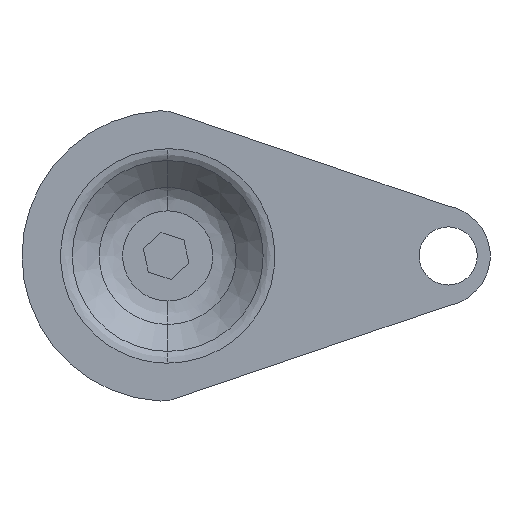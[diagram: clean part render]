
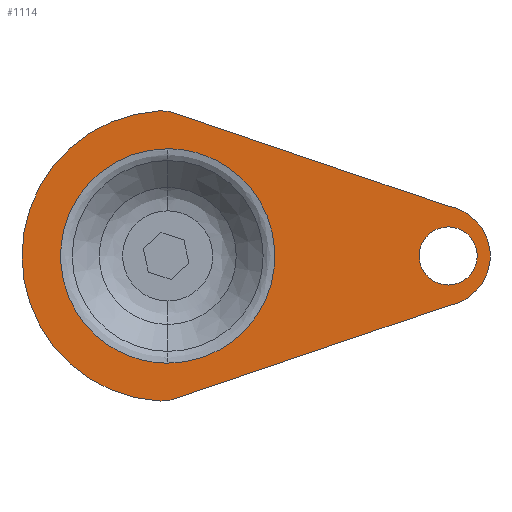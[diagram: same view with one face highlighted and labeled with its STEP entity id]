
A CAD part, front view. The second image highlights one B-rep face of the part: STEP entity #1114.
In plain terms, the highlighted planar face has unit normal (0, -1, 0).
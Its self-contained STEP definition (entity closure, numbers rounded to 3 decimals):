
#34 = VERTEX_POINT ( 'NONE', #2188 ) ;
#125 = CARTESIAN_POINT ( 'NONE',  ( -19.082, -10.175, -34.954 ) ) ;
#192 = CIRCLE ( 'NONE', #402, 7. ) ;
#261 = LINE ( 'NONE', #1871, #2031 ) ;
#309 = CIRCLE ( 'NONE', #900, 10. ) ;
#325 = CARTESIAN_POINT ( 'NONE',  ( -17.565, -10.175, 0. ) ) ;
#363 = DIRECTION ( 'NONE',  ( 0., 0., 1. ) ) ;
#402 = AXIS2_PLACEMENT_3D ( 'NONE', #448, #452, #587 ) ;
#413 = CARTESIAN_POINT ( 'NONE',  ( -15.865, -10.175, 34.422 ) ) ;
#430 = CARTESIAN_POINT ( 'NONE',  ( 34.199, -10.175, -25.828 ) ) ;
#438 = CARTESIAN_POINT ( 'NONE',  ( -17.565, -10.175, 0. ) ) ;
#448 = CARTESIAN_POINT ( 'NONE',  ( 50.135, -10.175, 0. ) ) ;
#452 = DIRECTION ( 'NONE',  ( 0., -1., 0. ) ) ;
#462 = ORIENTED_EDGE ( 'NONE', *, *, #750, .F. ) ;
#468 = FACE_OUTER_BOUND ( 'NONE', #2145, .T. ) ;
#531 = DIRECTION ( 'NONE',  ( 0., 1., 0. ) ) ;
#563 = CARTESIAN_POINT ( 'NONE',  ( -17.458, -10.175, 25.828 ) ) ;
#574 = DIRECTION ( 'NONE',  ( 0., 0., -1. ) ) ;
#585 = DIRECTION ( 'NONE',  ( 0., 1., 0. ) ) ;
#587 = DIRECTION ( 'NONE',  ( 0., 0., 1. ) ) ;
#591 = EDGE_CURVE ( 'NONE', #1290, #1720, #1687, .T. ) ;
#613 = CARTESIAN_POINT ( 'NONE',  ( -19.082, -10.175, -24.954 ) ) ;
#621 = VERTEX_POINT ( 'NONE', #1545 ) ;
#637 = AXIS2_PLACEMENT_3D ( 'NONE', #1305, #1328, #1338 ) ;
#674 = AXIS2_PLACEMENT_3D ( 'NONE', #325, #531, #363 ) ;
#750 = EDGE_CURVE ( 'NONE', #2282, #798, #1923, .T. ) ;
#798 = VERTEX_POINT ( 'NONE', #125 ) ;
#810 = VECTOR ( 'NONE', #2176, 1000. ) ;
#823 = EDGE_CURVE ( 'NONE', #2256, #2282, #1272, .T. ) ;
#855 = CARTESIAN_POINT ( 'NONE',  ( -17.458, -10.175, -25.828 ) ) ;
#883 = DIRECTION ( 'NONE',  ( 0., 1., 0. ) ) ;
#887 = AXIS2_PLACEMENT_3D ( 'NONE', #613, #585, #574 ) ;
#900 = AXIS2_PLACEMENT_3D ( 'NONE', #1952, #883, #2128 ) ;
#978 = VERTEX_POINT ( 'NONE', #2144 ) ;
#1004 = ORIENTED_EDGE ( 'NONE', *, *, #1410, .F. ) ;
#1035 = FACE_BOUND ( 'NONE', #1670, .T. ) ;
#1056 = VERTEX_POINT ( 'NONE', #2109 ) ;
#1087 = EDGE_CURVE ( 'NONE', #1056, #1389, #1478, .T. ) ;
#1103 = ORIENTED_EDGE ( 'NONE', *, *, #823, .F. ) ;
#1113 = CARTESIAN_POINT ( 'NONE',  ( -17.458, -10.175, -25.828 ) ) ;
#1114 = ADVANCED_FACE ( 'NONE', ( #1035, #468, #1897 ), #1928, .F. ) ;
#1160 = EDGE_CURVE ( 'NONE', #34, #1459, #1235, .T. ) ;
#1163 = CIRCLE ( 'NONE', #1382, 35. ) ;
#1204 = CARTESIAN_POINT ( 'NONE',  ( -69.115, -10.175, 25.828 ) ) ;
#1211 = CARTESIAN_POINT ( 'NONE',  ( -17.458, -10.175, 25.828 ) ) ;
#1235 =( BOUNDED_CURVE ( )  B_SPLINE_CURVE ( 3, ( #1211, #1204, #1240, #1393 ),
 .UNSPECIFIED., .F., .F. ) 
 B_SPLINE_CURVE_WITH_KNOTS ( ( 4, 4 ),
 ( 0., 1. ),
 .UNSPECIFIED. ) 
 CURVE ( )  GEOMETRIC_REPRESENTATION_ITEM ( )  RATIONAL_B_SPLINE_CURVE ( ( 1., 0.333, 0.333, 1. ) ) 
 REPRESENTATION_ITEM ( '' )  );
#1240 = CARTESIAN_POINT ( 'NONE',  ( -69.115, -10.175, -25.828 ) ) ;
#1272 = LINE ( 'NONE', #1490, #810 ) ;
#1290 = VERTEX_POINT ( 'NONE', #1808 ) ;
#1305 = CARTESIAN_POINT ( 'NONE',  ( 48.071, -10.175, 0. ) ) ;
#1328 = DIRECTION ( 'NONE',  ( 0., 1., 0. ) ) ;
#1338 = DIRECTION ( 'NONE',  ( 0., 0., 1. ) ) ;
#1382 = AXIS2_PLACEMENT_3D ( 'NONE', #438, #1494, #1526 ) ;
#1389 = VERTEX_POINT ( 'NONE', #1695 ) ;
#1393 = CARTESIAN_POINT ( 'NONE',  ( -17.458, -10.175, -25.828 ) ) ;
#1410 = EDGE_CURVE ( 'NONE', #1389, #1056, #192, .T. ) ;
#1459 = VERTEX_POINT ( 'NONE', #1113 ) ;
#1460 = EDGE_CURVE ( 'NONE', #621, #2256, #1870, .T. ) ;
#1478 = CIRCLE ( 'NONE', #2152, 7. ) ;
#1490 = CARTESIAN_POINT ( 'NONE',  ( 50.135, -10.175, -12. ) ) ;
#1494 = DIRECTION ( 'NONE',  ( 0., 1., 0. ) ) ;
#1521 = ORIENTED_EDGE ( 'NONE', *, *, #1909, .F. ) ;
#1522 = CARTESIAN_POINT ( 'NONE',  ( -15.865, -10.175, -34.422 ) ) ;
#1526 = DIRECTION ( 'NONE',  ( 0., 0., -1. ) ) ;
#1545 = CARTESIAN_POINT ( 'NONE',  ( 50.135, -10.175, 12. ) ) ;
#1588 = ORIENTED_EDGE ( 'NONE', *, *, #1087, .F. ) ;
#1602 = EDGE_CURVE ( 'NONE', #978, #1290, #1163, .T. ) ;
#1654 = CARTESIAN_POINT ( 'NONE',  ( 34.199, -10.175, 25.828 ) ) ;
#1670 = EDGE_LOOP ( 'NONE', ( #1747, #2275 ) ) ;
#1687 = CIRCLE ( 'NONE', #1899, 10. ) ;
#1695 = CARTESIAN_POINT ( 'NONE',  ( 50.135, -10.175, -7. ) ) ;
#1720 = VERTEX_POINT ( 'NONE', #413 ) ;
#1730 = DIRECTION ( 'NONE',  ( 0., 0., -1. ) ) ;
#1738 = DIRECTION ( 'NONE',  ( 0., 1., 0. ) ) ;
#1747 = ORIENTED_EDGE ( 'NONE', *, *, #1775, .F. ) ;
#1775 = EDGE_CURVE ( 'NONE', #1459, #34, #2134, .T. ) ;
#1808 = CARTESIAN_POINT ( 'NONE',  ( -19.688, -10.175, 34.936 ) ) ;
#1812 = CARTESIAN_POINT ( 'NONE',  ( -19.082, -10.175, 24.954 ) ) ;
#1860 = ORIENTED_EDGE ( 'NONE', *, *, #1602, .F. ) ;
#1870 = CIRCLE ( 'NONE', #637, 12.176 ) ;
#1871 = CARTESIAN_POINT ( 'NONE',  ( -15.865, -10.175, 34.422 ) ) ;
#1897 = FACE_BOUND ( 'NONE', #1955, .T. ) ;
#1899 = AXIS2_PLACEMENT_3D ( 'NONE', #1812, #1738, #1730 ) ;
#1906 = ORIENTED_EDGE ( 'NONE', *, *, #591, .F. ) ;
#1909 = EDGE_CURVE ( 'NONE', #798, #978, #309, .T. ) ;
#1923 = CIRCLE ( 'NONE', #887, 10. ) ;
#1928 = PLANE ( 'NONE',  #674 ) ;
#1946 = CARTESIAN_POINT ( 'NONE',  ( 50.135, -10.175, 0. ) ) ;
#1951 = DIRECTION ( 'NONE',  ( 0., -1., 0. ) ) ;
#1952 = CARTESIAN_POINT ( 'NONE',  ( -19.082, -10.175, -24.954 ) ) ;
#1955 = EDGE_LOOP ( 'NONE', ( #1588, #1004 ) ) ;
#2018 = ORIENTED_EDGE ( 'NONE', *, *, #2253, .F. ) ;
#2031 = VECTOR ( 'NONE', #2046, 1000. ) ;
#2046 = DIRECTION ( 'NONE',  ( 0.947, 0., -0.322 ) ) ;
#2080 = ORIENTED_EDGE ( 'NONE', *, *, #1460, .F. ) ;
#2099 = DIRECTION ( 'NONE',  ( 0., 0., 1. ) ) ;
#2109 = CARTESIAN_POINT ( 'NONE',  ( 50.135, -10.175, 7. ) ) ;
#2128 = DIRECTION ( 'NONE',  ( 0., 0., -1. ) ) ;
#2134 =( BOUNDED_CURVE ( )  B_SPLINE_CURVE ( 3, ( #855, #430, #1654, #563 ),
 .UNSPECIFIED., .F., .F. ) 
 B_SPLINE_CURVE_WITH_KNOTS ( ( 4, 4 ),
 ( 0., 1. ),
 .UNSPECIFIED. ) 
 CURVE ( )  GEOMETRIC_REPRESENTATION_ITEM ( )  RATIONAL_B_SPLINE_CURVE ( ( 1., 0.333, 0.333, 1. ) ) 
 REPRESENTATION_ITEM ( '' )  );
#2144 = CARTESIAN_POINT ( 'NONE',  ( -19.688, -10.175, -34.936 ) ) ;
#2145 = EDGE_LOOP ( 'NONE', ( #2080, #2018, #1906, #1860, #1521, #462, #1103 ) ) ;
#2152 = AXIS2_PLACEMENT_3D ( 'NONE', #1946, #1951, #2099 ) ;
#2176 = DIRECTION ( 'NONE',  ( -0.947, 0., -0.322 ) ) ;
#2188 = CARTESIAN_POINT ( 'NONE',  ( -17.458, -10.175, 25.828 ) ) ;
#2213 = CARTESIAN_POINT ( 'NONE',  ( 50.135, -10.175, -12. ) ) ;
#2253 = EDGE_CURVE ( 'NONE', #1720, #621, #261, .T. ) ;
#2256 = VERTEX_POINT ( 'NONE', #2213 ) ;
#2275 = ORIENTED_EDGE ( 'NONE', *, *, #1160, .F. ) ;
#2282 = VERTEX_POINT ( 'NONE', #1522 ) ;
